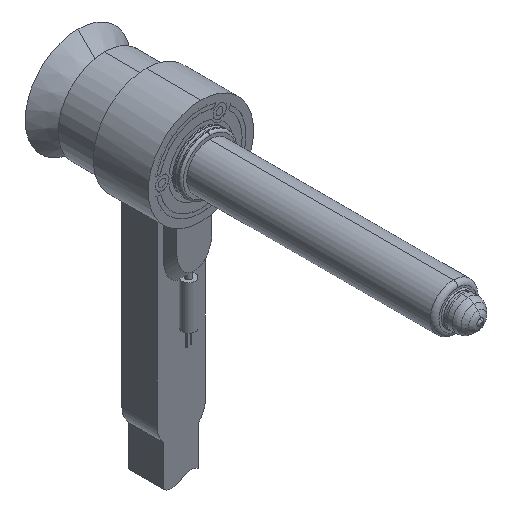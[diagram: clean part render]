
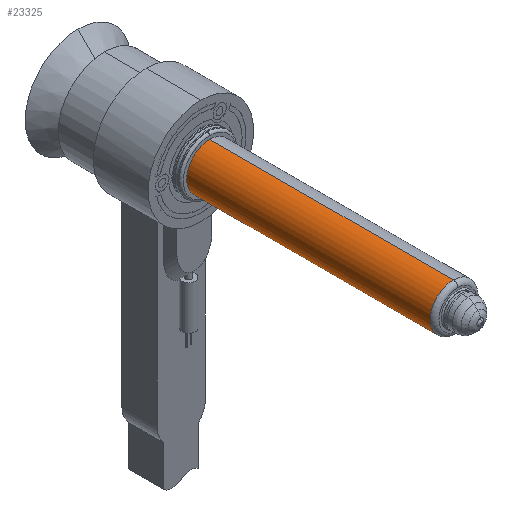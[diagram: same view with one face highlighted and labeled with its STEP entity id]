
A CAD part, isometric view. The second image highlights one B-rep face of the part: STEP entity #23325.
In plain terms, the highlighted cylindrical face has radius 10.5 mm (diameter 21 mm), a partial arc.
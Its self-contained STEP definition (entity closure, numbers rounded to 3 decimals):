
#22477=CARTESIAN_POINT('',(0.,-131.906,0.));
#22478=DIRECTION('',(0.,1.,0.));
#22479=DIRECTION('',(1.,0.,0.));
#22480=AXIS2_PLACEMENT_3D('',#22477,#22478,#22479);
#22482=DIRECTION('',(0.,1.,0.));
#22483=VECTOR('',#22482,110.906);
#22484=CARTESIAN_POINT('',(10.5,-131.906,0.));
#22485=LINE('',#22484,#22483);
#22491=DIRECTION('',(0.,1.,0.));
#22492=VECTOR('',#22491,110.906);
#22493=CARTESIAN_POINT('',(-10.5,-131.906,0.));
#22494=LINE('',#22493,#22492);
#22495=CARTESIAN_POINT('',(0.,-21.,0.));
#22496=DIRECTION('',(0.,1.,0.));
#22497=DIRECTION('',(1.,0.,0.));
#22498=AXIS2_PLACEMENT_3D('',#22495,#22496,#22497);
#22848=CARTESIAN_POINT('',(10.5,-131.906,0.));
#22850=VERTEX_POINT('',#22848);
#22851=CARTESIAN_POINT('',(10.5,-21.,0.));
#22852=VERTEX_POINT('',#22851);
#22860=CARTESIAN_POINT('',(-10.5,-131.906,0.));
#22862=VERTEX_POINT('',#22860);
#22863=CARTESIAN_POINT('',(-10.5,-21.,0.));
#22864=VERTEX_POINT('',#22863);
#23311=CARTESIAN_POINT('',(0.,-154.627,0.));
#23312=DIRECTION('',(0.,1.,0.));
#23313=DIRECTION('',(1.,0.,0.));
#23314=AXIS2_PLACEMENT_3D('',#23311,#23312,#23313);
#23315=CYLINDRICAL_SURFACE('',#23314,10.5);
#23317=ORIENTED_EDGE('',*,*,#23316,.T.);
#23319=ORIENTED_EDGE('',*,*,#23318,.T.);
#23321=ORIENTED_EDGE('',*,*,#23320,.F.);
#23322=ORIENTED_EDGE('',*,*,#23304,.F.);
#23323=EDGE_LOOP('',(#23317,#23319,#23321,#23322));
#23324=FACE_OUTER_BOUND('',#23323,.F.);
#23325=ADVANCED_FACE('',(#23324),#23315,.T.);
#22481=CIRCLE('',#22480,10.5);
#22499=CIRCLE('',#22498,10.5);
#23304=EDGE_CURVE('',#22850,#22862,#22481,.T.);
#23316=EDGE_CURVE('',#22850,#22852,#22485,.T.);
#23318=EDGE_CURVE('',#22852,#22864,#22499,.T.);
#23320=EDGE_CURVE('',#22862,#22864,#22494,.T.);
